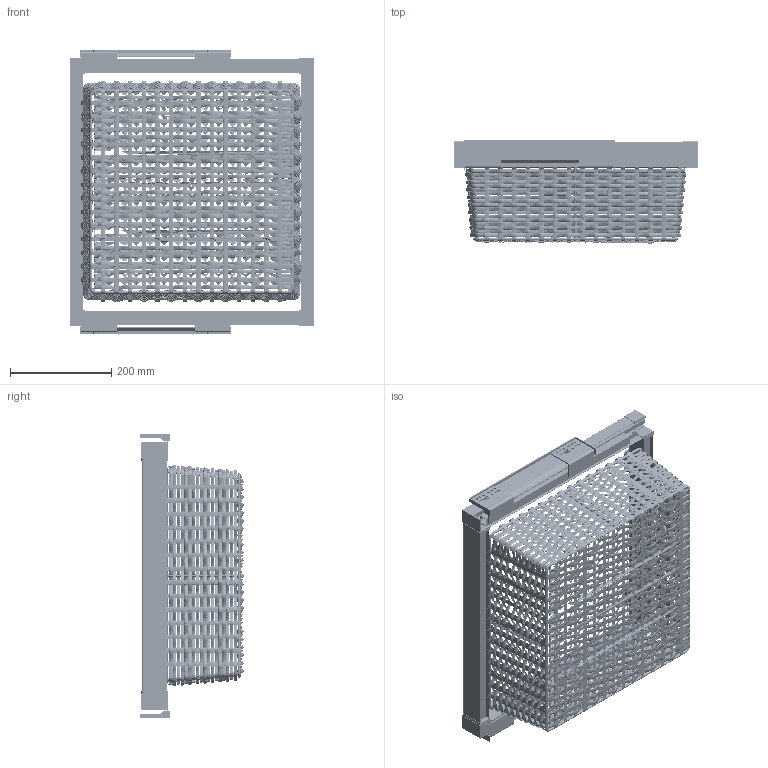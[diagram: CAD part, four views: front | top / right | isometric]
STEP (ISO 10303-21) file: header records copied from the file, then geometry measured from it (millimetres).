
FILE_DESCRIPTION(/* description */ (''),/* implementation_level */ '2;1');
FILE_NAME(/* name */ 'D:\$Workingspace\Designs\Katalog\Cadsoft\GTV New Elegance\Modele\WG-KOSZR60-10\WG-KOSZR60-60.stp',/* time_stamp */ '2018-09-11T08:33:47+02:00',/* author */ ('tomaszw'),/* organization */ (''),/* preprocessor_version */ 'ST-DEVELOPER v17',/* originating_system */ 'Autodesk Inventor 2019',/* authorisation */ '');
FILE_SCHEMA (('AUTOMOTIVE_DESIGN { 1 0 10303 214 3 1 1 }'));
Products named in the file (5): WG-KOSZR60-60; WG-KOSZR60-60_1; WG-POBUW60M-60; 3DAXIS-Wew-Góra-Cloce; Haczyk
Assembly tree (7 placements, depth 2):
  WG-KOSZR60-60
    WG-KOSZR60-60_1
    Haczyk  x4
    WG-POBUW60M-60
    3DAXIS-Wew-Góra-Cloce
Bounding box: 483 x 203.34 x 560 mm (x, y, z)
Volume: 1423069.4 mm3; surface area: 2065455.6 mm2
Topology: 13 solids, 14 shells, 2046 faces, 11673 edges, 7791 vertices
Faces by surface type: bspline 1314, plane 582, cylinder 142, cone 8
Full cylindrical faces by diameter (mm): 5 x4, 5.76 x8, 6 x36, 9 x4
Entity records: 819334 total; most frequent: CARTESIAN_POINT 742360, ORIENTED_EDGE 22760, EDGE_CURVE 11380, DIRECTION 8255, VERTEX_POINT 7671, B_SPLINE_CURVE_WITH_KNOTS 7383, EDGE_LOOP 3823, AXIS2_PLACEMENT_3D 3603
